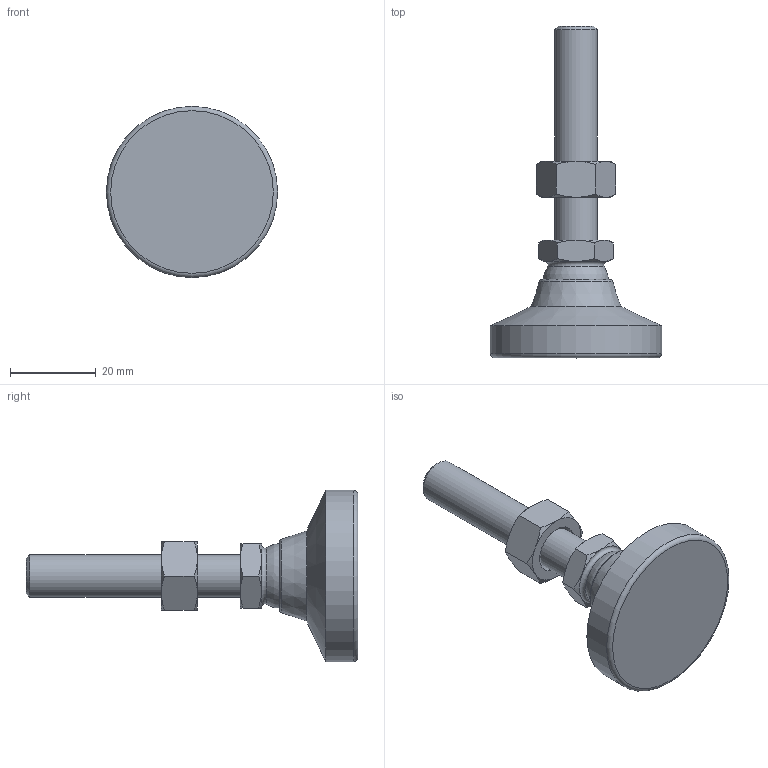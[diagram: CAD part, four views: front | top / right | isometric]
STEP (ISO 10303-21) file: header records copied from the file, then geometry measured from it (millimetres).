
FILE_DESCRIPTION( ( 'STEP AP214' ), ' ' );
FILE_NAME( 'O:/ganter_2015/teil_2/2_5/gn343_2/gn343_2_kre/Levelling foot with threaded stud GN 343.2-40-M10-50-KRE-(0).stp', '2015-10-26T09:18:50', ( '' ), ( '' ), ' ', 'PARTsolutions', ' ' );
FILE_SCHEMA( ( 'AUTOMOTIVE_DESIGN { 1 0 10303 214 1 1 1 1 }' ) );
Length unit declared in the file: millimetre
Products named in the file (4): Levelling foot with threaded stud GN 343.2-40-M10-50-KRE-(0); _Levelling foot with threaded stud GN 343.2-40-M10-50-KRE-(0)_foot; _Levelling foot with threaded stud GN 343.2-40-M10-50-KRE-(0)_screw; _Levelling foot with threaded stud GN 343.2-40-M10-50-KRE-(0)_nut
Assembly tree (3 placements, depth 2):
  Levelling foot with threaded stud GN 343.2-40-M10-50-KRE-(0)
    _Levelling foot with threaded stud GN 343.2-40-M10-50-KRE-(0)_foot
    _Levelling foot with threaded stud GN 343.2-40-M10-50-KRE-(0)_screw
    _Levelling foot with threaded stud GN 343.2-40-M10-50-KRE-(0)_nut
Bounding box: 40 x 77.5 x 40 mm (x, y, z)
Volume: 21473 mm3; surface area: 7638.1 mm2
Topology: 3 solids, 3 shells, 50 faces, 107 edges, 63 vertices
Faces by surface type: cone 24, plane 18, torus 3, cylinder 3, sphere 2
Full cylindrical faces by diameter (mm): 8.376 x1, 10 x1, 40 x1
Entity records: 1874 total; most frequent: CARTESIAN_POINT 468, DIRECTION 188, ORIENTED_EDGE 176, AXIS2_PLACEMENT_3D 88, EDGE_CURVE 88, EDGE_LOOP 66, VERTEX_POINT 60, FACE_OUTER_BOUND 56
